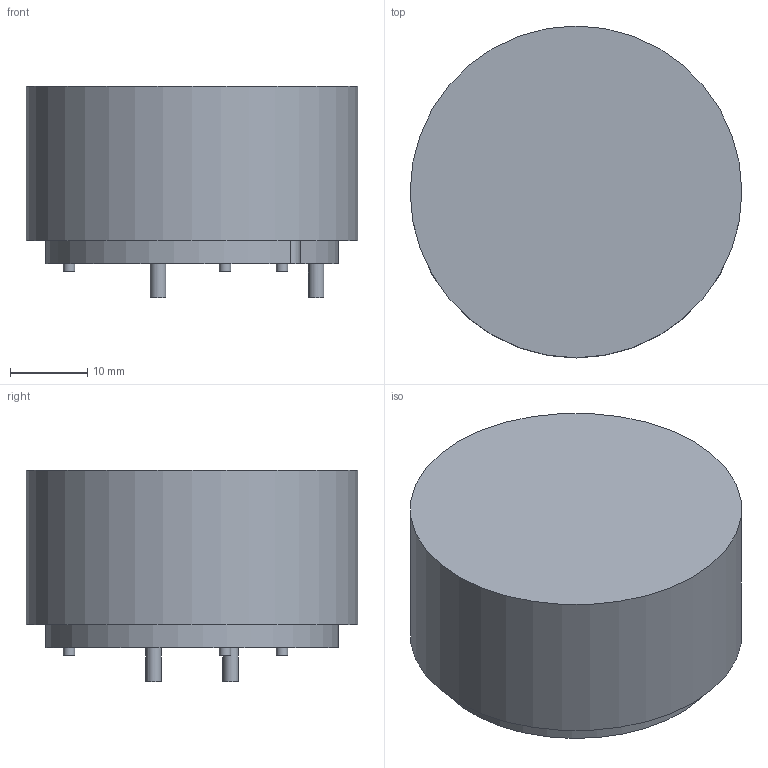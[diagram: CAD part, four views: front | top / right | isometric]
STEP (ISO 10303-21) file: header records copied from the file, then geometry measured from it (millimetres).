
FILE_DESCRIPTION(/* description */ (''),/* implementation_level */ '2;1');
FILE_NAME(/* name */ '6123-X221 3D Model_change pin length.stp',/* time_stamp */ '2023-08-01T16:43:50+08:00',/* author */ ('cn000333'),/* organization */ (''),/* preprocessor_version */ 'ST-DEVELOPER v19.2',/* originating_system */ 'Autodesk Inventor 2024',/* authorisation */ '');
FILE_SCHEMA (('AUTOMOTIVE_DESIGN { 1 0 10303 214 3 1 1 }'));
Length unit declared in the file: millimetre
Products named in the file (1): 6123-X316
Bounding box: 43 x 43 x 27.4 mm (x, y, z)
Volume: 32500 mm3; surface area: 6099.9 mm2
Topology: 1 solids, 1 shells, 22 faces, 34 edges, 22 vertices
Faces by surface type: cylinder 11, plane 11
Full cylindrical faces by diameter (mm): 1.5 x3, 2 x4, 43 x1
Entity records: 547 total; most frequent: DIRECTION 102, CARTESIAN_POINT 79, ORIENTED_EDGE 68, AXIS2_PLACEMENT_3D 45, EDGE_CURVE 34, EDGE_LOOP 30, FACE_OUTER_BOUND 22, CIRCLE 22
